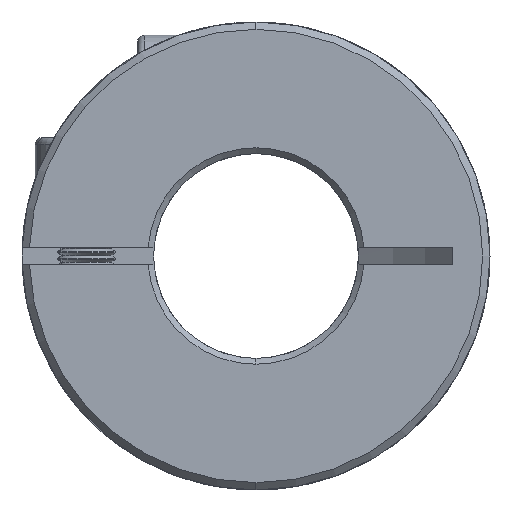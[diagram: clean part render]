
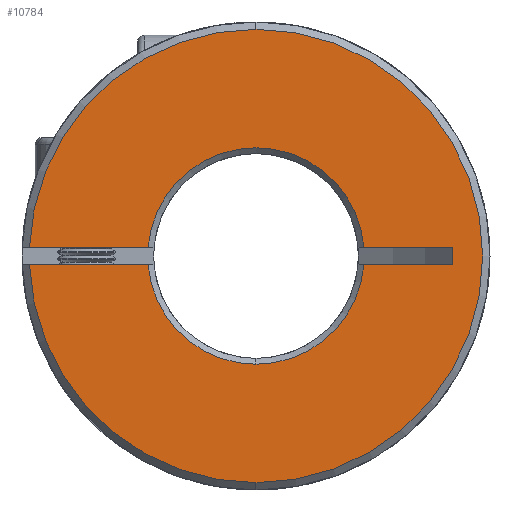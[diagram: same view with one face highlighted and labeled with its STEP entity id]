
A CAD part, front view. The second image highlights one B-rep face of the part: STEP entity #10784.
In plain terms, the highlighted planar face has unit normal (0, -1, 0).
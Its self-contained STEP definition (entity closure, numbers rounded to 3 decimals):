
#38 = DIRECTION ( 'NONE',  ( 0., 0., 1. ) ) ;
#297 = CARTESIAN_POINT ( 'NONE',  ( 0., 0., 0. ) ) ;
#312 = CARTESIAN_POINT ( 'NONE',  ( 7.376, 0., -0.6 ) ) ;
#334 = CARTESIAN_POINT ( 'NONE',  ( -50., 0., -0.6 ) ) ;
#366 = DIRECTION ( 'NONE',  ( 0., 0., 1. ) ) ;
#374 = VECTOR ( 'NONE', #8845, 1000. ) ;
#401 = EDGE_CURVE ( 'NONE', #3506, #5161, #1315, .T. ) ;
#514 = CARTESIAN_POINT ( 'NONE',  ( -15.488, 0., -0.6 ) ) ;
#834 = EDGE_CURVE ( 'NONE', #7479, #10132, #6168, .T. ) ;
#860 = ORIENTED_EDGE ( 'NONE', *, *, #834, .T. ) ;
#1117 = ORIENTED_EDGE ( 'NONE', *, *, #401, .T. ) ;
#1315 = CIRCLE ( 'NONE', #10136, 15.5 ) ;
#1338 = CARTESIAN_POINT ( 'NONE',  ( -7.376, 0., -0.6 ) ) ;
#1389 = CARTESIAN_POINT ( 'NONE',  ( 0., 0., -7.4 ) ) ;
#1454 = ORIENTED_EDGE ( 'NONE', *, *, #8026, .T. ) ;
#1600 = DIRECTION ( 'NONE',  ( 0., -1., 0. ) ) ;
#1691 = EDGE_CURVE ( 'NONE', #6688, #6296, #2489, .T. ) ;
#1795 = AXIS2_PLACEMENT_3D ( 'NONE', #8849, #4540, #3679 ) ;
#2128 = EDGE_CURVE ( 'NONE', #5161, #6518, #6580, .T. ) ;
#2299 = LINE ( 'NONE', #8700, #10121 ) ;
#2324 = VERTEX_POINT ( 'NONE', #3099 ) ;
#2372 = FACE_OUTER_BOUND ( 'NONE', #7713, .T. ) ;
#2489 = LINE ( 'NONE', #5370, #5617 ) ;
#2547 = AXIS2_PLACEMENT_3D ( 'NONE', #3379, #5135, #6813 ) ;
#2565 = CARTESIAN_POINT ( 'NONE',  ( 0., 0., 0. ) ) ;
#2755 = CIRCLE ( 'NONE', #3386, 15.5 ) ;
#2775 = DIRECTION ( 'NONE',  ( 1., 0., 0. ) ) ;
#2929 = CARTESIAN_POINT ( 'NONE',  ( 13.436, 0., 0.6 ) ) ;
#3099 = CARTESIAN_POINT ( 'NONE',  ( 13.436, 0., -0.6 ) ) ;
#3184 = LINE ( 'NONE', #7075, #374 ) ;
#3245 = EDGE_CURVE ( 'NONE', #6688, #3506, #2755, .T. ) ;
#3354 = DIRECTION ( 'NONE',  ( 0., 0., 1. ) ) ;
#3379 = CARTESIAN_POINT ( 'NONE',  ( 0., 0., 0. ) ) ;
#3386 = AXIS2_PLACEMENT_3D ( 'NONE', #10340, #9477, #6886 ) ;
#3471 = CARTESIAN_POINT ( 'NONE',  ( -7.376, 0., 0.6 ) ) ;
#3502 = ORIENTED_EDGE ( 'NONE', *, *, #1691, .F. ) ;
#3506 = VERTEX_POINT ( 'NONE', #5471 ) ;
#3679 = DIRECTION ( 'NONE',  ( 0., 0., 1. ) ) ;
#4003 = VECTOR ( 'NONE', #2775, 1000. ) ;
#4176 = CARTESIAN_POINT ( 'NONE',  ( 0., 0., 0. ) ) ;
#4183 = LINE ( 'NONE', #9775, #9192 ) ;
#4326 = CARTESIAN_POINT ( 'NONE',  ( 0., 0., 0. ) ) ;
#4370 = AXIS2_PLACEMENT_3D ( 'NONE', #4176, #7606, #10219 ) ;
#4415 = EDGE_CURVE ( 'NONE', #10901, #2324, #9964, .T. ) ;
#4427 = VERTEX_POINT ( 'NONE', #2929 ) ;
#4540 = DIRECTION ( 'NONE',  ( 0., 1., 0. ) ) ;
#4555 = AXIS2_PLACEMENT_3D ( 'NONE', #297, #10702, #366 ) ;
#4561 = VERTEX_POINT ( 'NONE', #1389 ) ;
#4987 = AXIS2_PLACEMENT_3D ( 'NONE', #2565, #10330, #38 ) ;
#5099 = ORIENTED_EDGE ( 'NONE', *, *, #9469, .T. ) ;
#5135 = DIRECTION ( 'NONE',  ( 0., 1., 0. ) ) ;
#5161 = VERTEX_POINT ( 'NONE', #10976 ) ;
#5318 = EDGE_CURVE ( 'NONE', #10901, #4561, #8462, .T. ) ;
#5370 = CARTESIAN_POINT ( 'NONE',  ( -50., 0., -0.6 ) ) ;
#5471 = CARTESIAN_POINT ( 'NONE',  ( 0., 0., -15.5 ) ) ;
#5617 = VECTOR ( 'NONE', #6128, 1000. ) ;
#6128 = DIRECTION ( 'NONE',  ( 1., 0., 0. ) ) ;
#6168 = CIRCLE ( 'NONE', #2547, 7.4 ) ;
#6246 = ORIENTED_EDGE ( 'NONE', *, *, #4415, .F. ) ;
#6252 = PLANE ( 'NONE',  #1795 ) ;
#6296 = VERTEX_POINT ( 'NONE', #1338 ) ;
#6368 = DIRECTION ( 'NONE',  ( 1., 0., 0. ) ) ;
#6518 = VERTEX_POINT ( 'NONE', #9011 ) ;
#6580 = CIRCLE ( 'NONE', #4987, 15.5 ) ;
#6688 = VERTEX_POINT ( 'NONE', #514 ) ;
#6813 = DIRECTION ( 'NONE',  ( 0., 0., 1. ) ) ;
#6886 = DIRECTION ( 'NONE',  ( 0., 0., 1. ) ) ;
#7075 = CARTESIAN_POINT ( 'NONE',  ( -50., 0., 0.6 ) ) ;
#7474 = ORIENTED_EDGE ( 'NONE', *, *, #5318, .T. ) ;
#7479 = VERTEX_POINT ( 'NONE', #3471 ) ;
#7584 = CARTESIAN_POINT ( 'NONE',  ( 7.376, 0., 0.6 ) ) ;
#7606 = DIRECTION ( 'NONE',  ( 0., 1., 0. ) ) ;
#7713 = EDGE_LOOP ( 'NONE', ( #3502, #10833, #1117, #10186, #7735, #860, #5099, #1454, #6246, #7474, #9884 ) ) ;
#7735 = ORIENTED_EDGE ( 'NONE', *, *, #10931, .T. ) ;
#7962 = DIRECTION ( 'NONE',  ( 0., 0., -1. ) ) ;
#8026 = EDGE_CURVE ( 'NONE', #4427, #2324, #2299, .T. ) ;
#8462 = CIRCLE ( 'NONE', #4370, 7.4 ) ;
#8700 = CARTESIAN_POINT ( 'NONE',  ( 13.436, 0., -0.6 ) ) ;
#8845 = DIRECTION ( 'NONE',  ( 1., 0., 0. ) ) ;
#8849 = CARTESIAN_POINT ( 'NONE',  ( -50., 0., -18.413 ) ) ;
#9011 = CARTESIAN_POINT ( 'NONE',  ( -15.488, 0., 0.6 ) ) ;
#9192 = VECTOR ( 'NONE', #6368, 1000. ) ;
#9469 = EDGE_CURVE ( 'NONE', #10132, #4427, #3184, .T. ) ;
#9477 = DIRECTION ( 'NONE',  ( 0., -1., 0. ) ) ;
#9677 = CIRCLE ( 'NONE', #4555, 7.4 ) ;
#9775 = CARTESIAN_POINT ( 'NONE',  ( -50., 0., 0.6 ) ) ;
#9884 = ORIENTED_EDGE ( 'NONE', *, *, #9938, .T. ) ;
#9938 = EDGE_CURVE ( 'NONE', #4561, #6296, #9677, .T. ) ;
#9964 = LINE ( 'NONE', #334, #4003 ) ;
#10121 = VECTOR ( 'NONE', #7962, 1000. ) ;
#10132 = VERTEX_POINT ( 'NONE', #7584 ) ;
#10136 = AXIS2_PLACEMENT_3D ( 'NONE', #4326, #1600, #3354 ) ;
#10186 = ORIENTED_EDGE ( 'NONE', *, *, #2128, .T. ) ;
#10219 = DIRECTION ( 'NONE',  ( 0., 0., 1. ) ) ;
#10330 = DIRECTION ( 'NONE',  ( 0., -1., 0. ) ) ;
#10340 = CARTESIAN_POINT ( 'NONE',  ( 0., 0., 0. ) ) ;
#10702 = DIRECTION ( 'NONE',  ( 0., 1., 0. ) ) ;
#10784 = ADVANCED_FACE ( 'NONE', ( #2372 ), #6252, .F. ) ;
#10833 = ORIENTED_EDGE ( 'NONE', *, *, #3245, .T. ) ;
#10901 = VERTEX_POINT ( 'NONE', #312 ) ;
#10931 = EDGE_CURVE ( 'NONE', #6518, #7479, #4183, .T. ) ;
#10976 = CARTESIAN_POINT ( 'NONE',  ( 0., 0., 15.5 ) ) ;
